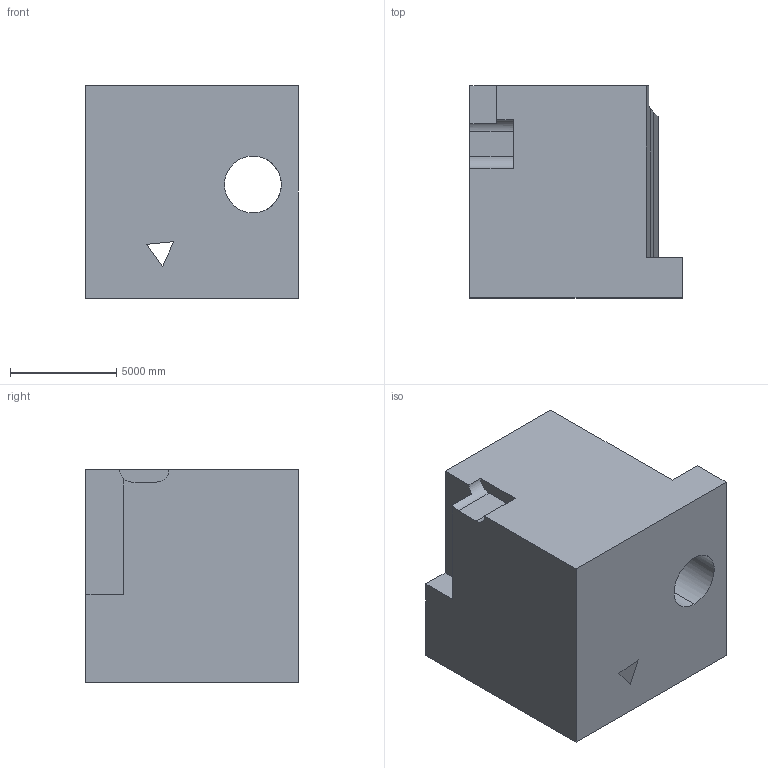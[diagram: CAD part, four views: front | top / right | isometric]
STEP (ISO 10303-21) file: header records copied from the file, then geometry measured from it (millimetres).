
FILE_DESCRIPTION (( 'STEP AP203' ), '1' );
FILE_NAME ('1616.STEP', '2022-08-18T16:11:45', ( 'user' ), ( '' ), 'SwSTEP 2.0', 'SolidWorks 2021', '' );
FILE_SCHEMA (( 'CONFIG_CONTROL_DESIGN' ));
Length unit declared in the file: centimetre
Products named in the file (1): 1616
Bounding box: 10000 x 10000 x 10000 mm (x, y, z)
Volume: 803140902243 mm3; surface area: 683334607.8 mm2
Topology: 1 solids, 1 shells, 28 faces, 78 edges, 52 vertices
Faces by surface type: plane 22, cylinder 6
Entity records: 1058 total; most frequent: CARTESIAN_POINT 247, ORIENTED_EDGE 156, DIRECTION 145, EDGE_CURVE 78, LINE 61, VECTOR 61, VERTEX_POINT 52, AXIS2_PLACEMENT_3D 42
